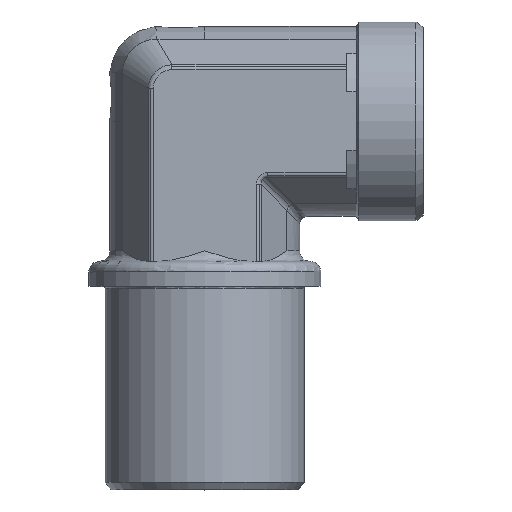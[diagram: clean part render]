
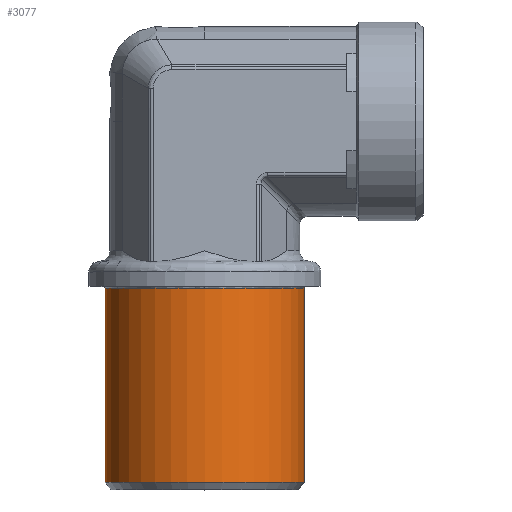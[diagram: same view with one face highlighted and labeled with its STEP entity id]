
A CAD part, top view. The second image highlights one B-rep face of the part: STEP entity #3077.
In plain terms, the highlighted cylindrical face has radius 25.91 mm (diameter 51.82 mm), a partial arc.
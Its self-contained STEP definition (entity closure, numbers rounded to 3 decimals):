
#1154=CARTESIAN_POINT('',(39.,0.,-25.91));
#1155=VERTEX_POINT('',#1154);
#1163=CARTESIAN_POINT('',(39.,-25.91,0.));
#1164=VERTEX_POINT('',#1163);
#1165=CARTESIAN_POINT('',(39.,0.,0.));
#1166=DIRECTION('',(-1.0,0.0,0.0));
#1167=DIRECTION('',(0.0,0.0,1.0));
#1168=AXIS2_PLACEMENT_3D('',#1165,#1166,#1167);
#1169=CIRCLE('',#1168,25.91);
#1170=EDGE_CURVE('',#1155,#1164,#1169,.T.);
#1196=CARTESIAN_POINT('',(89.563,0.,25.91));
#1197=VERTEX_POINT('',#1196);
#1198=CARTESIAN_POINT('',(39.,0.,25.91));
#1199=VERTEX_POINT('',#1198);
#1200=CARTESIAN_POINT('',(89.563,0.,25.91));
#1201=DIRECTION('',(-1.0,0.0,0.0));
#1202=VECTOR('',#1201,50.563);
#1203=LINE('',#1200,#1202);
#1204=EDGE_CURVE('',#1197,#1199,#1203,.T.);
#1206=CARTESIAN_POINT('',(89.563,0.,-25.91));
#1207=VERTEX_POINT('',#1206);
#1215=CARTESIAN_POINT('',(39.,0.,-25.91));
#1216=DIRECTION('',(1.0,0.0,0.0));
#1217=VECTOR('',#1216,50.563);
#1218=LINE('',#1215,#1217);
#1219=EDGE_CURVE('',#1155,#1207,#1218,.T.);
#3047=CARTESIAN_POINT('',(89.563,0.,0.));
#3048=DIRECTION('',(-1.0,0.0,0.0));
#3049=DIRECTION('',(0.0,0.0,1.0));
#3050=AXIS2_PLACEMENT_3D('',#3047,#3048,#3049);
#3051=CIRCLE('',#3050,25.91);
#3052=EDGE_CURVE('',#1207,#1197,#3051,.T.);
#3059=CARTESIAN_POINT('',(64.281,0.,0.));
#3060=DIRECTION('',(-1.0,0.,0.));
#3061=DIRECTION('',(0.0,0.0,1.0));
#3062=AXIS2_PLACEMENT_3D('',#3059,#3060,#3061);
#3063=CYLINDRICAL_SURFACE('',#3062,25.91);
#3064=ORIENTED_EDGE('',*,*,#1204,.T.);
#3065=CARTESIAN_POINT('',(39.,0.,0.));
#3066=DIRECTION('',(-1.0,0.0,0.0));
#3067=DIRECTION('',(0.0,0.0,1.0));
#3068=AXIS2_PLACEMENT_3D('',#3065,#3066,#3067);
#3069=CIRCLE('',#3068,25.91);
#3070=EDGE_CURVE('',#1164,#1199,#3069,.T.);
#3071=ORIENTED_EDGE('',*,*,#3070,.F.);
#3072=ORIENTED_EDGE('',*,*,#1170,.F.);
#3073=ORIENTED_EDGE('',*,*,#1219,.T.);
#3074=ORIENTED_EDGE('',*,*,#3052,.T.);
#3075=EDGE_LOOP('',(#3064,#3071,#3072,#3073,#3074));
#3076=FACE_OUTER_BOUND('',#3075,.T.);
#3077=ADVANCED_FACE('',(#3076),#3063,.T.);
